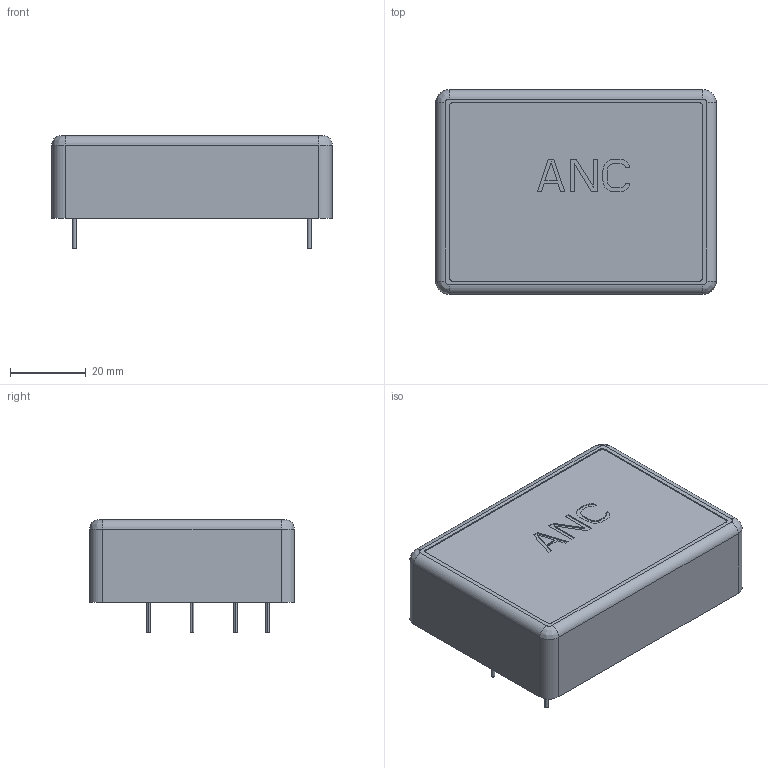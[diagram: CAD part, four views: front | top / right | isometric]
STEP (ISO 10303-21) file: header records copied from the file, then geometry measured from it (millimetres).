
FILE_DESCRIPTION((''),'2;1');
FILE_NAME('ANC50','2016-02-02T',('arch'),(''),'PRO/ENGINEER BY PARAMETRIC TECHNOLOGY CORPORATION, 2008380','PRO/ENGINEER BY PARAMETRIC TECHNOLOGY CORPORATION, 2008380','');
FILE_SCHEMA(('AUTOMOTIVE_DESIGN { 1 2 10303 214 0 1 1 1 }'));
Length unit declared in the file: millimetre
Products named in the file (1): ANC50
Bounding box: 74.1 x 54.1 x 29.8 mm (x, y, z)
Volume: 85889 mm3; surface area: 13393.9 mm2
Topology: 1 solids, 1 shells, 104 faces, 271 edges, 178 vertices
Faces by surface type: plane 80, cylinder 20, bspline 4
Entity records: 3277 total; most frequent: CARTESIAN_POINT 614, ORIENTED_EDGE 542, DIRECTION 515, EDGE_CURVE 271, VECTOR 227, LINE 227, VERTEX_POINT 178, AXIS2_PLACEMENT_3D 144
